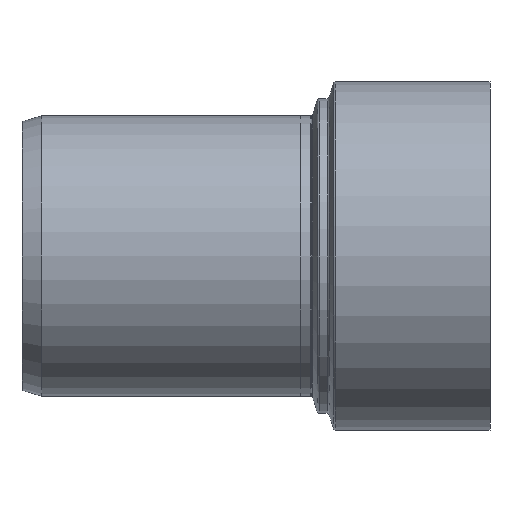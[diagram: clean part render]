
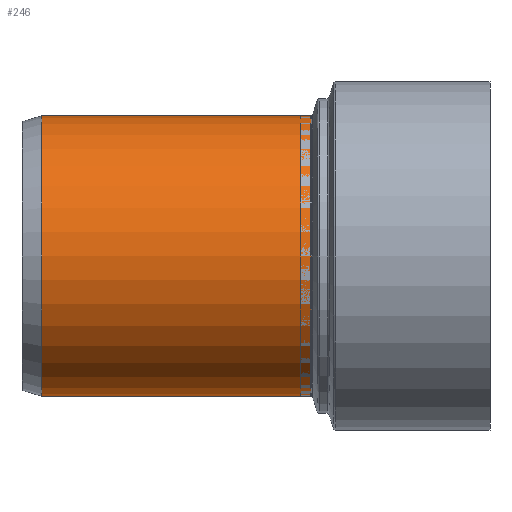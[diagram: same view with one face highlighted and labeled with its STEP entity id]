
A CAD part, front view. The second image highlights one B-rep face of the part: STEP entity #246.
In plain terms, the highlighted cylindrical face has radius 25.075 mm (diameter 50.15 mm), a full revolution.
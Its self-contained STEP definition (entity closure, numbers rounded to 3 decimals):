
#27=CYLINDRICAL_SURFACE($,#274,25.075);
#41=FACE_BOUND($,#83,.T.);
#62=FACE_OUTER_BOUND($,#82,.T.);
#82=EDGE_LOOP($,(#182));
#83=EDGE_LOOP($,(#183));
#119=CIRCLE($,#271,25.075);
#121=CIRCLE($,#275,25.075);
#139=VERTEX_POINT($,#407);
#141=VERTEX_POINT($,#413);
#159=EDGE_CURVE($,#139,#139,#119,.T.);
#161=EDGE_CURVE($,#141,#141,#121,.T.);
#182=ORIENTED_EDGE($,*,*,#161,.T.);
#183=ORIENTED_EDGE($,*,*,#159,.F.);
#246=ADVANCED_FACE($,(#62,#41),#27,.T.);
#271=AXIS2_PLACEMENT_3D($,#408,#319,#320);
#274=AXIS2_PLACEMENT_3D($,#412,#325,#326);
#275=AXIS2_PLACEMENT_3D($,#414,#327,#328);
#319=DIRECTION('center_axis',(0.,0.,-1.));
#320=DIRECTION('ref_axis',(-1.,0.,0.));
#325=DIRECTION('center_axis',(0.,0.,1.));
#326=DIRECTION('ref_axis',(-1.,0.,0.));
#327=DIRECTION('center_axis',(0.,0.,-1.));
#328=DIRECTION('ref_axis',(-1.,0.,0.));
#407=CARTESIAN_POINT('',(25.075,0.,-22.4));
#408=CARTESIAN_POINT('Origin',(0.,0.,-22.4));
#412=CARTESIAN_POINT('Origin',(0.,0.,0.));
#413=CARTESIAN_POINT('',(25.075,0.,25.9));
#414=CARTESIAN_POINT('Origin',(0.,0.,25.9));
